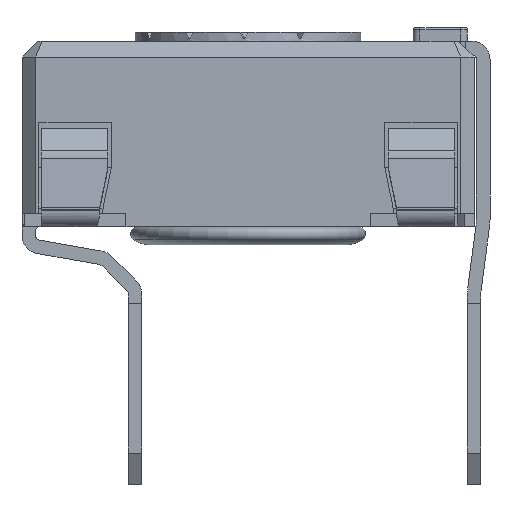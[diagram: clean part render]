
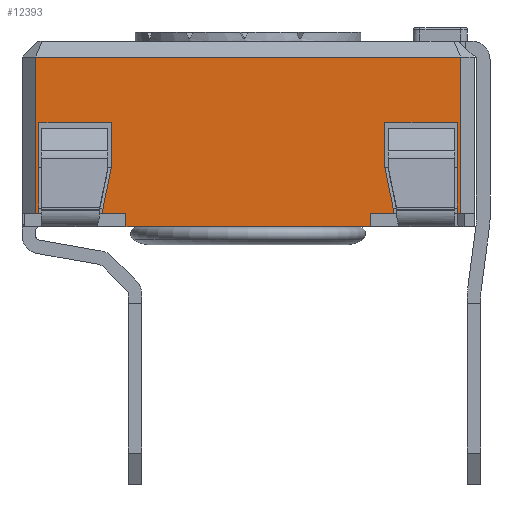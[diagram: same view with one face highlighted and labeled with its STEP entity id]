
A CAD part, left-side view. The second image highlights one B-rep face of the part: STEP entity #12393.
In plain terms, the highlighted planar face has unit normal (-1, 0, 0).
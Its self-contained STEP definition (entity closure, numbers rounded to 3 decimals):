
#986=FACE_OUTER_BOUND('',#1621,.T.);
#1621=EDGE_LOOP('',(#10323,#10324,#10325,#10326,#10327,#10328,#10329,#10330,
#10331,#10332,#10333,#10334,#10335,#10336,#10337,#10338,#10339,#10340));
#2489=LINE('',#18531,#3935);
#2520=LINE('',#18593,#3966);
#2526=LINE('',#18605,#3972);
#2547=LINE('',#18647,#3993);
#2715=LINE('',#19175,#4161);
#2758=LINE('',#19257,#4204);
#2761=LINE('',#19263,#4207);
#2906=LINE('',#19627,#4352);
#2908=LINE('',#19631,#4354);
#2912=LINE('',#19639,#4358);
#2915=LINE('',#19645,#4361);
#2922=LINE('',#19659,#4368);
#2924=LINE('',#19663,#4370);
#2930=LINE('',#19674,#4376);
#2931=LINE('',#19676,#4377);
#2932=LINE('',#19679,#4378);
#2933=LINE('',#19681,#4379);
#2934=LINE('',#19682,#4380);
#3935=VECTOR('',#15070,10.);
#3966=VECTOR('',#15105,10.);
#3972=VECTOR('',#15111,10.);
#3993=VECTOR('',#15134,10.);
#4161=VECTOR('',#15610,10.);
#4204=VECTOR('',#15685,10.);
#4207=VECTOR('',#15694,10.);
#4352=VECTOR('',#16047,10.);
#4354=VECTOR('',#16051,10.);
#4358=VECTOR('',#16057,10.);
#4361=VECTOR('',#16062,10.);
#4368=VECTOR('',#16077,10.);
#4370=VECTOR('',#16081,10.);
#4376=VECTOR('',#16093,10.);
#4377=VECTOR('',#16096,10.);
#4378=VECTOR('',#16099,10.);
#4379=VECTOR('',#16100,10.);
#4380=VECTOR('',#16101,10.);
#5270=VERTEX_POINT('',#18528);
#5271=VERTEX_POINT('',#18530);
#5299=VERTEX_POINT('',#18590);
#5300=VERTEX_POINT('',#18592);
#5305=VERTEX_POINT('',#18602);
#5306=VERTEX_POINT('',#18604);
#5325=VERTEX_POINT('',#18644);
#5326=VERTEX_POINT('',#18646);
#5477=VERTEX_POINT('',#19172);
#5478=VERTEX_POINT('',#19174);
#5592=VERTEX_POINT('',#19625);
#5593=VERTEX_POINT('',#19630);
#5596=VERTEX_POINT('',#19637);
#5598=VERTEX_POINT('',#19644);
#5601=VERTEX_POINT('',#19658);
#5602=VERTEX_POINT('',#19662);
#5605=VERTEX_POINT('',#19678);
#5606=VERTEX_POINT('',#19680);
#6692=EDGE_CURVE('',#5271,#5270,#2489,.T.);
#6723=EDGE_CURVE('',#5300,#5299,#2520,.T.);
#6729=EDGE_CURVE('',#5306,#5305,#2526,.T.);
#6750=EDGE_CURVE('',#5326,#5325,#2547,.T.);
#6996=EDGE_CURVE('',#5478,#5477,#2715,.T.);
#7039=EDGE_CURVE('',#5300,#5477,#2758,.T.);
#7042=EDGE_CURVE('',#5305,#5478,#2761,.T.);
#7221=EDGE_CURVE('',#5299,#5592,#2906,.T.);
#7223=EDGE_CURVE('',#5593,#5306,#2908,.T.);
#7227=EDGE_CURVE('',#5592,#5596,#2912,.T.);
#7230=EDGE_CURVE('',#5598,#5593,#2915,.T.);
#7237=EDGE_CURVE('',#5601,#5598,#2922,.T.);
#7239=EDGE_CURVE('',#5602,#5326,#2924,.T.);
#7245=EDGE_CURVE('',#5596,#5602,#2930,.T.);
#7246=EDGE_CURVE('',#5270,#5601,#2931,.T.);
#7247=EDGE_CURVE('',#5605,#5325,#2932,.T.);
#7248=EDGE_CURVE('',#5606,#5605,#2933,.T.);
#7249=EDGE_CURVE('',#5606,#5271,#2934,.T.);
#10323=ORIENTED_EDGE('',*,*,#7246,.T.);
#10324=ORIENTED_EDGE('',*,*,#7237,.T.);
#10325=ORIENTED_EDGE('',*,*,#7230,.T.);
#10326=ORIENTED_EDGE('',*,*,#7223,.T.);
#10327=ORIENTED_EDGE('',*,*,#6729,.T.);
#10328=ORIENTED_EDGE('',*,*,#7042,.T.);
#10329=ORIENTED_EDGE('',*,*,#6996,.T.);
#10330=ORIENTED_EDGE('',*,*,#7039,.F.);
#10331=ORIENTED_EDGE('',*,*,#6723,.T.);
#10332=ORIENTED_EDGE('',*,*,#7221,.T.);
#10333=ORIENTED_EDGE('',*,*,#7227,.T.);
#10334=ORIENTED_EDGE('',*,*,#7245,.T.);
#10335=ORIENTED_EDGE('',*,*,#7239,.T.);
#10336=ORIENTED_EDGE('',*,*,#6750,.T.);
#10337=ORIENTED_EDGE('',*,*,#7247,.F.);
#10338=ORIENTED_EDGE('',*,*,#7248,.F.);
#10339=ORIENTED_EDGE('',*,*,#7249,.T.);
#10340=ORIENTED_EDGE('',*,*,#6692,.T.);
#11558=PLANE('',#13300);
#12393=ADVANCED_FACE('',(#986),#11558,.T.);
#13300=AXIS2_PLACEMENT_3D('',#19677,#16097,#16098);
#15070=DIRECTION('',(0.,-1.,0.));
#15105=DIRECTION('',(0.,-1.,0.));
#15111=DIRECTION('',(0.,-1.,0.));
#15134=DIRECTION('',(0.,-1.,0.));
#15610=DIRECTION('',(0.,-1.,0.));
#15685=DIRECTION('',(0.,0.,-1.));
#15694=DIRECTION('',(0.,0.,-1.));
#16047=DIRECTION('',(0.,0.199,0.98));
#16051=DIRECTION('',(0.,0.199,-0.98));
#16057=DIRECTION('',(0.,0.,1.));
#16062=DIRECTION('',(0.,0.,-1.));
#16077=DIRECTION('',(0.,-1.,0.));
#16081=DIRECTION('',(0.,0.,-1.));
#16093=DIRECTION('',(0.,-1.,0.));
#16096=DIRECTION('',(0.,0.,1.));
#16097=DIRECTION('center_axis',(-1.,0.,0.));
#16098=DIRECTION('ref_axis',(0.,0.,1.));
#16099=DIRECTION('',(0.,0.,-1.));
#16100=DIRECTION('',(0.,-1.,0.));
#16101=DIRECTION('',(0.,0.,-1.));
#18528=CARTESIAN_POINT('',(-31.348,-8.365,-3.8));
#18530=CARTESIAN_POINT('',(-31.348,-8.29,-3.8));
#18531=CARTESIAN_POINT('',(-31.348,-17.69,-3.8));
#18590=CARTESIAN_POINT('',(-31.348,-16.219,-3.8));
#18592=CARTESIAN_POINT('',(-31.348,-15.69,-3.8));
#18593=CARTESIAN_POINT('',(-31.348,-9.762,-3.8));
#18602=CARTESIAN_POINT('',(-31.348,-10.29,-3.8));
#18604=CARTESIAN_POINT('',(-31.348,-9.762,-3.8));
#18605=CARTESIAN_POINT('',(-31.348,-9.762,-3.8));
#18644=CARTESIAN_POINT('',(-31.348,-17.69,-3.8));
#18646=CARTESIAN_POINT('',(-31.348,-17.615,-3.8));
#18647=CARTESIAN_POINT('',(-31.348,-17.69,-3.8));
#19172=CARTESIAN_POINT('',(-31.348,-15.69,-4.1));
#19174=CARTESIAN_POINT('',(-31.348,-10.29,-4.1));
#19175=CARTESIAN_POINT('',(-31.348,-16.219,-4.1));
#19257=CARTESIAN_POINT('',(-31.348,-15.69,-3.8));
#19263=CARTESIAN_POINT('',(-31.348,-10.29,-3.8));
#19625=CARTESIAN_POINT('',(-31.348,-16.015,-2.8));
#19627=CARTESIAN_POINT('',(-31.348,-16.219,-3.8));
#19630=CARTESIAN_POINT('',(-31.348,-9.965,-2.8));
#19631=CARTESIAN_POINT('',(-31.348,-9.965,-2.8));
#19637=CARTESIAN_POINT('',(-31.348,-16.015,-1.8));
#19639=CARTESIAN_POINT('',(-31.348,-16.015,-2.8));
#19644=CARTESIAN_POINT('',(-31.348,-9.965,-1.8));
#19645=CARTESIAN_POINT('',(-31.348,-9.965,-1.8));
#19658=CARTESIAN_POINT('',(-31.348,-8.365,-1.8));
#19659=CARTESIAN_POINT('',(-31.348,-10.64,-1.8));
#19662=CARTESIAN_POINT('',(-31.348,-17.615,-1.8));
#19663=CARTESIAN_POINT('',(-31.348,-17.615,-1.368));
#19674=CARTESIAN_POINT('',(-31.348,-10.64,-1.8));
#19676=CARTESIAN_POINT('',(-31.348,-8.365,-1.368));
#19677=CARTESIAN_POINT('Origin',(-31.348,-8.29,0.));
#19678=CARTESIAN_POINT('',(-31.348,-17.69,-0.35));
#19679=CARTESIAN_POINT('',(-31.348,-17.69,0.));
#19680=CARTESIAN_POINT('',(-31.348,-8.29,-0.35));
#19681=CARTESIAN_POINT('',(-31.348,-10.64,-0.35));
#19682=CARTESIAN_POINT('',(-31.348,-8.29,0.));
